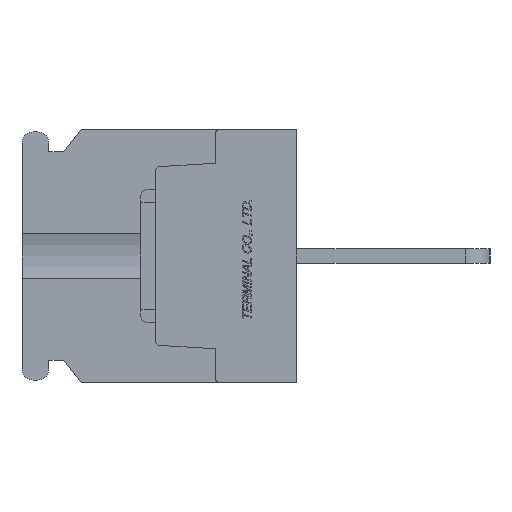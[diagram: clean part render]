
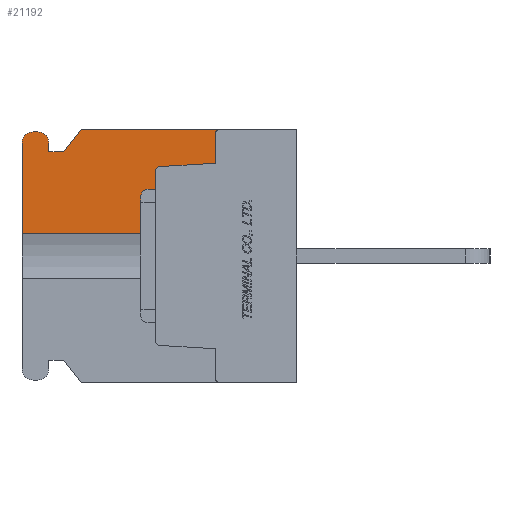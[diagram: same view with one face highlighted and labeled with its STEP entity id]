
A CAD part, left-side view. The second image highlights one B-rep face of the part: STEP entity #21192.
In plain terms, the highlighted planar face has unit normal (-1, 0, 0).
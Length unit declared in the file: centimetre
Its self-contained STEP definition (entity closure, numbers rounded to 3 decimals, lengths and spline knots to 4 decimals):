
#1578=VECTOR('',#24189,1.);
#1580=VECTOR('',#24192,1.);
#1582=VECTOR('',#24199,1.);
#1583=VECTOR('',#24200,1.);
#1584=VECTOR('',#24201,1.);
#1585=VECTOR('',#24202,1.);
#1586=VECTOR('',#24203,1.);
#1587=VECTOR('',#24206,1.);
#1588=VECTOR('',#24209,1.);
#1589=VECTOR('',#24210,1.);
#3865=LINE('',#31197,#1578);
#3867=LINE('',#31201,#1580);
#3869=LINE('',#31207,#1582);
#3870=LINE('',#31209,#1583);
#3871=LINE('',#31211,#1584);
#3872=LINE('',#31213,#1585);
#3873=LINE('',#31215,#1586);
#3874=LINE('',#31219,#1587);
#3875=LINE('',#31223,#1588);
#3876=LINE('',#31225,#1589);
#6234=VERTEX_POINT('',#31190);
#6235=VERTEX_POINT('',#31192);
#6236=VERTEX_POINT('',#31196);
#6237=VERTEX_POINT('',#31200);
#6238=VERTEX_POINT('',#31204);
#6239=VERTEX_POINT('',#31208);
#6240=VERTEX_POINT('',#31210);
#6241=VERTEX_POINT('',#31212);
#6242=VERTEX_POINT('',#31214);
#6243=VERTEX_POINT('',#31216);
#6244=VERTEX_POINT('',#31218);
#6245=VERTEX_POINT('',#31220);
#6246=VERTEX_POINT('',#31222);
#6247=VERTEX_POINT('',#31224);
#7665=CIRCLE('',#36046,0.03);
#7666=CIRCLE('',#36050,0.03);
#7667=CIRCLE('',#36052,0.075);
#7668=CIRCLE('',#36053,0.075);
#9394=EDGE_CURVE('',#6235,#6234,#7665,.T.);
#9397=EDGE_CURVE('',#6234,#6236,#3865,.T.);
#9399=EDGE_CURVE('',#6236,#6237,#3867,.T.);
#9401=EDGE_CURVE('',#6237,#6238,#7666,.T.);
#9402=EDGE_CURVE('',#6239,#6235,#3869,.T.);
#9403=EDGE_CURVE('',#6240,#6238,#3870,.T.);
#9404=EDGE_CURVE('',#6241,#6240,#3871,.T.);
#9405=EDGE_CURVE('',#6242,#6241,#3872,.T.);
#9406=EDGE_CURVE('',#6243,#6242,#3873,.T.);
#9407=EDGE_CURVE('',#6244,#6243,#7667,.T.);
#9408=EDGE_CURVE('',#6245,#6244,#3874,.T.);
#9409=EDGE_CURVE('',#6246,#6245,#7668,.T.);
#9410=EDGE_CURVE('',#6247,#6246,#3875,.T.);
#9411=EDGE_CURVE('',#6247,#6239,#3876,.T.);
#13813=ORIENTED_EDGE('',*,*,#9402,.T.);
#13814=ORIENTED_EDGE('',*,*,#9394,.T.);
#13815=ORIENTED_EDGE('',*,*,#9397,.T.);
#13816=ORIENTED_EDGE('',*,*,#9399,.T.);
#13817=ORIENTED_EDGE('',*,*,#9401,.T.);
#13818=ORIENTED_EDGE('',*,*,#9403,.F.);
#13819=ORIENTED_EDGE('',*,*,#9404,.F.);
#13820=ORIENTED_EDGE('',*,*,#9405,.F.);
#13821=ORIENTED_EDGE('',*,*,#9406,.F.);
#13822=ORIENTED_EDGE('',*,*,#9407,.F.);
#13823=ORIENTED_EDGE('',*,*,#9408,.F.);
#13824=ORIENTED_EDGE('',*,*,#9409,.F.);
#13825=ORIENTED_EDGE('',*,*,#9410,.F.);
#13826=ORIENTED_EDGE('',*,*,#9411,.T.);
#18494=EDGE_LOOP('',(#13813,#13814,#13815,#13816,#13817,#13818,#13819,#13820,
#13821,#13822,#13823,#13824,#13825,#13826));
#19870=FACE_BOUND('',#18494,.T.);
#21192=ADVANCED_FACE('',(#19870),#22259,.F.);
#22259=PLANE('',#36051);
#24184=DIRECTION('',(1.,0.,0.));
#24185=DIRECTION('',(0.,0.,0.03));
#24189=DIRECTION('',(0.,-0.998,0.061));
#24192=DIRECTION('',(0.,0.,1.));
#24196=DIRECTION('',(1.,0.,0.));
#24197=DIRECTION('',(0.,0.,0.03));
#24198=DIRECTION('',(1.,0.,0.));
#24199=DIRECTION('',(0.,0.,1.));
#24200=DIRECTION('',(0.,-1.,0.));
#24201=DIRECTION('',(0.,-0.625,0.781));
#24202=DIRECTION('',(0.,-1.,0.));
#24203=DIRECTION('',(0.,0.,-1.));
#24204=DIRECTION('',(1.,0.,0.));
#24205=DIRECTION('',(0.,0.,-0.075));
#24206=DIRECTION('',(0.,-1.,0.));
#24207=DIRECTION('',(1.,0.,0.));
#24208=DIRECTION('',(0.,0.,-0.075));
#24209=DIRECTION('',(0.,0.,1.));
#24210=DIRECTION('',(0.,-1.,0.));
#31190=CARTESIAN_POINT('',(-1.1,0.9218,0.6017));
#31191=CARTESIAN_POINT('',(-1.1,0.92,0.5718));
#31192=CARTESIAN_POINT('',(-1.1,0.95,0.5718));
#31196=CARTESIAN_POINT('',(-1.1,0.55,0.6245));
#31197=CARTESIAN_POINT('',(-1.1,0.859,0.6056));
#31200=CARTESIAN_POINT('',(-1.1,0.55,0.82));
#31201=CARTESIAN_POINT('',(-1.1,0.55,0.3611));
#31204=CARTESIAN_POINT('',(-1.1,0.52,0.85));
#31205=CARTESIAN_POINT('',(-1.1,0.52,0.82));
#31206=CARTESIAN_POINT('',(-1.1,0.9454,0.));
#31207=CARTESIAN_POINT('',(-1.1,0.95,0.));
#31208=CARTESIAN_POINT('',(-1.1,0.95,0.1521));
#31209=CARTESIAN_POINT('',(-1.1,1.45,0.85));
#31210=CARTESIAN_POINT('',(-1.1,1.45,0.85));
#31211=CARTESIAN_POINT('',(-1.1,1.57,0.7));
#31212=CARTESIAN_POINT('',(-1.1,1.57,0.7));
#31213=CARTESIAN_POINT('',(-1.1,1.67,0.7));
#31214=CARTESIAN_POINT('',(-1.1,1.67,0.7));
#31215=CARTESIAN_POINT('',(-1.1,1.67,0.76));
#31216=CARTESIAN_POINT('',(-1.1,1.67,0.76));
#31217=CARTESIAN_POINT('',(-1.1,1.745,0.76));
#31218=CARTESIAN_POINT('',(-1.1,1.745,0.835));
#31219=CARTESIAN_POINT('',(-1.1,1.775,0.835));
#31220=CARTESIAN_POINT('',(-1.1,1.775,0.835));
#31221=CARTESIAN_POINT('',(-1.1,1.775,0.76));
#31222=CARTESIAN_POINT('',(-1.1,1.85,0.76));
#31223=CARTESIAN_POINT('',(-1.1,1.85,-0.76));
#31224=CARTESIAN_POINT('',(-1.1,1.85,0.1521));
#31225=CARTESIAN_POINT('',(-1.1,1.4,0.1521));
#36046=AXIS2_PLACEMENT_3D('',#31191,#24184,#24185);
#36050=AXIS2_PLACEMENT_3D('',#31205,#24196,#24197);
#36051=AXIS2_PLACEMENT_3D('',#31206,#24198,$);
#36052=AXIS2_PLACEMENT_3D('',#31217,#24204,#24205);
#36053=AXIS2_PLACEMENT_3D('',#31221,#24207,#24208);
